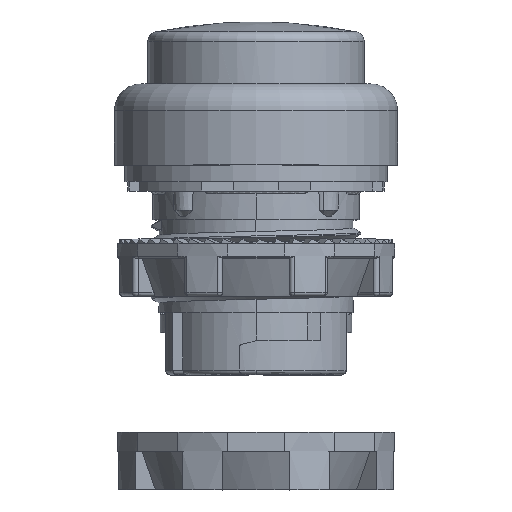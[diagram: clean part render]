
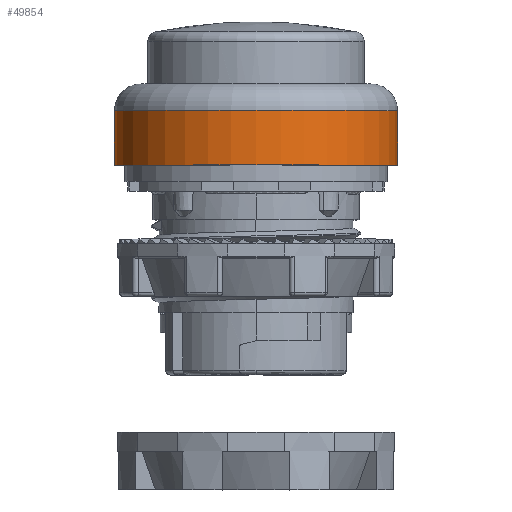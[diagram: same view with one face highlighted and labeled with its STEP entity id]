
A CAD part, top view. The second image highlights one B-rep face of the part: STEP entity #49854.
In plain terms, the highlighted cylindrical face has radius 14.8 mm (diameter 29.6 mm), a partial arc.
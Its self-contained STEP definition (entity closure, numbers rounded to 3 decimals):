
#313 = EDGE_CURVE ( 'NONE', #57051, #57050, #11460, .T. ) ;
#323 = EDGE_CURVE ( 'NONE', #57056, #57050, #11492, .T. ) ;
#325 = EDGE_CURVE ( 'NONE', #57057, #57051, #11495, .T. ) ;
#328 = EDGE_CURVE ( 'NONE', #57057, #57056, #11480, .T. ) ;
#1801 = ORIENTED_EDGE ( 'NONE', *, *, #328, .F. ) ;
#1802 = ORIENTED_EDGE ( 'NONE', *, *, #325, .T. ) ;
#1803 = ORIENTED_EDGE ( 'NONE', *, *, #313, .T. ) ;
#1804 = ORIENTED_EDGE ( 'NONE', *, *, #323, .F. ) ;
#6890 = AXIS2_PLACEMENT_3D ( 'NONE', #12363, #12365, #12366 ) ;
#6892 = AXIS2_PLACEMENT_3D ( 'NONE', #12356, #12358, #12359 ) ;
#11444 = VECTOR ( 'NONE', #12336, 1000. ) ;
#11460 = LINE ( 'NONE', #12335, #11444 ) ;
#11480 = LINE ( 'NONE', #12369, #11498 ) ;
#11492 = CIRCLE ( 'NONE', #6892, 14.8 ) ;
#11495 = CIRCLE ( 'NONE', #6890, 14.8 ) ;
#11498 = VECTOR ( 'NONE', #12372, 1000. ) ;
#12335 = CARTESIAN_POINT ( 'NONE',  ( -12.8, 0., 14.8 ) ) ;
#12336 = DIRECTION ( 'NONE',  ( 0., 1., 0. ) ) ;
#12356 = CARTESIAN_POINT ( 'NONE',  ( -12.8, 5.7, 0. ) ) ;
#12358 = DIRECTION ( 'NONE',  ( 0., 1., 0. ) ) ;
#12359 = DIRECTION ( 'NONE',  ( 0., 0., 1. ) ) ;
#12363 = CARTESIAN_POINT ( 'NONE',  ( -12.8, 0., 0. ) ) ;
#12365 = DIRECTION ( 'NONE',  ( 0., 1., 0. ) ) ;
#12366 = DIRECTION ( 'NONE',  ( 0., 0., 1. ) ) ;
#12369 = CARTESIAN_POINT ( 'NONE',  ( -12.8, 0., -14.8 ) ) ;
#12372 = DIRECTION ( 'NONE',  ( 0., 1., 0. ) ) ;
#18561 = DIRECTION ( 'NONE',  ( 0., 1., 0. ) ) ;
#18565 = DIRECTION ( 'NONE',  ( 0., 0., 1. ) ) ;
#18567 = CARTESIAN_POINT ( 'NONE',  ( -12.8, 0., 0. ) ) ;
#19595 = CARTESIAN_POINT ( 'NONE',  ( -12.8, 5.7, 14.8 ) ) ;
#19596 = CARTESIAN_POINT ( 'NONE',  ( -12.8, 0., 14.8 ) ) ;
#19601 = CARTESIAN_POINT ( 'NONE',  ( -12.8, 5.7, -14.8 ) ) ;
#19602 = CARTESIAN_POINT ( 'NONE',  ( -12.8, 0., -14.8 ) ) ;
#48881 = AXIS2_PLACEMENT_3D ( 'NONE', #18567, #18561, #18565 ) ;
#49854 = ADVANCED_FACE ( 'NONE', ( #54388 ), #54390, .T. ) ;
#54388 = FACE_OUTER_BOUND ( 'NONE', #63641, .T. ) ;
#54390 = CYLINDRICAL_SURFACE ( 'NONE', #48881, 14.8 ) ;
#57050 = VERTEX_POINT ( 'NONE', #19595 ) ;
#57051 = VERTEX_POINT ( 'NONE', #19596 ) ;
#57056 = VERTEX_POINT ( 'NONE', #19601 ) ;
#57057 = VERTEX_POINT ( 'NONE', #19602 ) ;
#63641 = EDGE_LOOP ( 'NONE', ( #1801, #1802, #1803, #1804 ) ) ;
